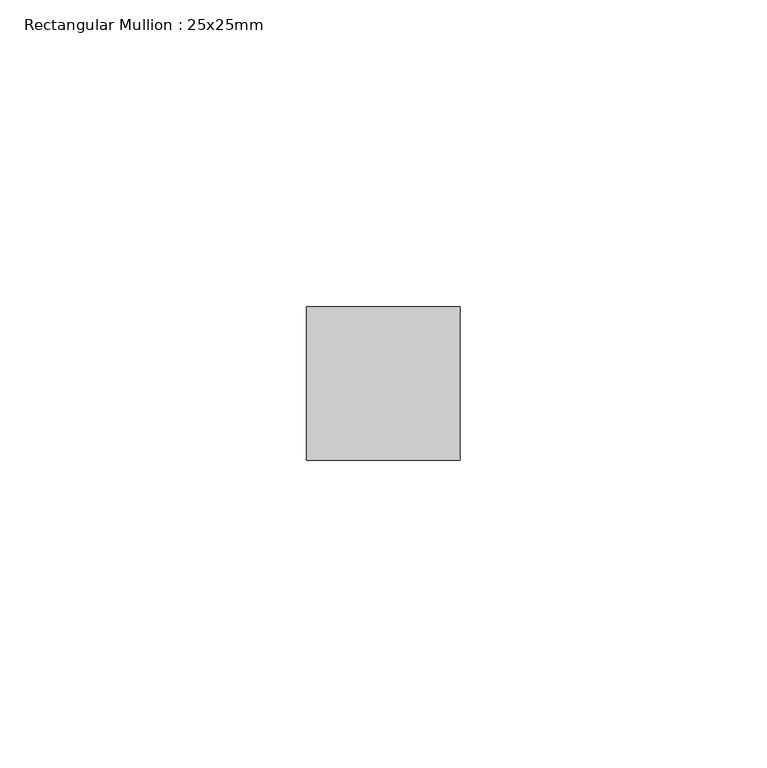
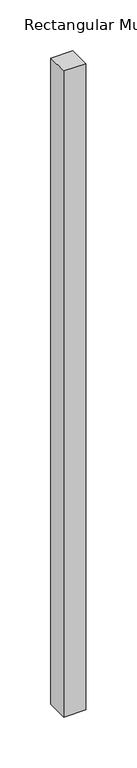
"""IFC4 building model written with IfcOpenShell, lengths in millimetres: member geometry, Rectangular Mullion : 25x25mm."""

from ifc_helpers import new_model, si_unit, frame, origin, place, context, project, spatial, polyline, outline, extrude, source, transform, mapped, element, save


def rectangular_mullion_25x25mm_25b33903(model_context):
    return source(origin(), model_context, "Body", "SweptSolid", [
        extrude(outline(polyline([(0.0, 0.5), (0.0, -24.5), (-25.0, -24.5), (-25.0, 0.5), (0.0, 0.5)])), frame((0.0, 0.0, -775.0), z_axis=(0.0, 0.0, 1.0), x_axis=(1.0, 0.0, 0.0)), (0.0, 0.0, 1.0), 775.0),
    ])


if __name__ == "__main__":
    model = new_model("IFC4")
    model_context = context("Model", 3, world=origin())
    ifc_project = project(units=[si_unit("LENGTHUNIT", "METRE", prefix="MILLI")], contexts=[model_context])
    site = spatial("IfcSite", under=ifc_project)
    building = spatial("IfcBuilding", under=site)
    placement = place(None, origin())
    rectangular_mullion_25x25mm_shape = rectangular_mullion_25x25mm_25b33903(model_context)
    element("IfcMember", 1, ObjectType="Rectangular Mullion : 25x25mm", at=placement, inside=building, context=model_context, shape_type="MappedRepresentation", body=[
        mapped(rectangular_mullion_25x25mm_shape, transform((0.0, 0.0, 0.0), x_axis=(1.0, 0.0, 0.0), y_axis=(0.0, 1.0, 0.0), z_axis=(0.0, 0.0, 1.0))),
    ])
    save(model, "model.ifc")
